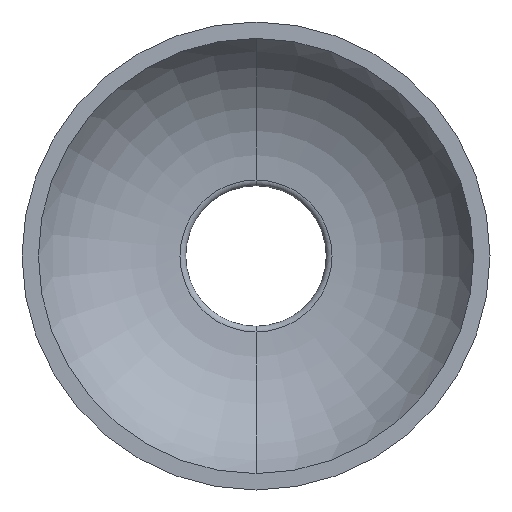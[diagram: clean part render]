
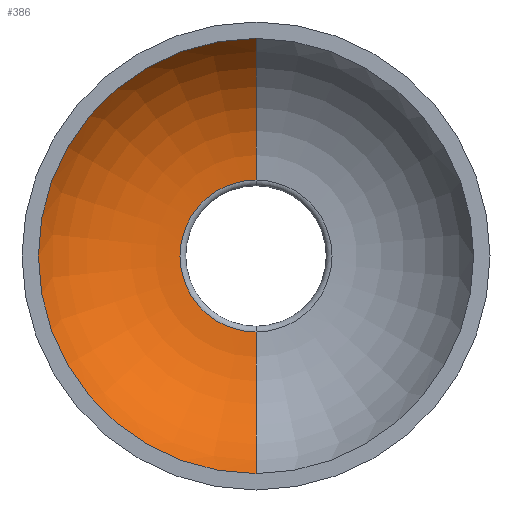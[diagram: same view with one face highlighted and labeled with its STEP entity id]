
A CAD part, front view. The second image highlights one B-rep face of the part: STEP entity #386.
In plain terms, the highlighted toroidal (fillet/blend) face has major radius 6.39 mm and minor radius 13.689 mm.
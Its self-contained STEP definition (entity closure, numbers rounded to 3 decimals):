
#5 = EDGE_CURVE ( 'NONE', #221, #91, #202, .T. ) ;
#12 = AXIS2_PLACEMENT_3D ( 'NONE', #284, #283, #410 ) ;
#14 = EDGE_CURVE ( 'NONE', #221, #249, #287, .T. ) ;
#23 = CARTESIAN_POINT ( 'NONE',  ( 0., -22.5, 0. ) ) ;
#44 = CARTESIAN_POINT ( 'NONE',  ( 0., -30., -18.6 ) ) ;
#45 = CARTESIAN_POINT ( 'NONE',  ( 0., -30., 18.6 ) ) ;
#47 = ORIENTED_EDGE ( 'NONE', *, *, #5, .F. ) ;
#72 = DIRECTION ( 'NONE',  ( 0., 0., 1. ) ) ;
#80 = ORIENTED_EDGE ( 'NONE', *, *, #150, .F. ) ;
#91 = VERTEX_POINT ( 'NONE', #45 ) ;
#103 = DIRECTION ( 'NONE',  ( 0., 1., 0. ) ) ;
#109 = EDGE_CURVE ( 'NONE', #249, #490, #265, .T. ) ;
#146 = CARTESIAN_POINT ( 'NONE',  ( 0., -36.188, -6.39 ) ) ;
#150 = EDGE_CURVE ( 'NONE', #91, #490, #248, .T. ) ;
#170 = AXIS2_PLACEMENT_3D ( 'NONE', #289, #496, #72 ) ;
#191 = CARTESIAN_POINT ( 'NONE',  ( 0., -36.188, 6.39 ) ) ;
#192 = DIRECTION ( 'NONE',  ( 1., 0., 0. ) ) ;
#202 = CIRCLE ( 'NONE', #170, 18.6 ) ;
#221 = VERTEX_POINT ( 'NONE', #44 ) ;
#231 = CARTESIAN_POINT ( 'NONE',  ( 0., -22.5, -6.496 ) ) ;
#232 = EDGE_LOOP ( 'NONE', ( #47, #425, #251, #80 ) ) ;
#248 = CIRCLE ( 'NONE', #457, 13.689 ) ;
#249 = VERTEX_POINT ( 'NONE', #231 ) ;
#251 = ORIENTED_EDGE ( 'NONE', *, *, #109, .T. ) ;
#255 = TOROIDAL_SURFACE ( 'NONE', #12, 6.39, 13.689 ) ;
#265 = CIRCLE ( 'NONE', #360, 6.496 ) ;
#283 = DIRECTION ( 'NONE',  ( 0., 1., 0. ) ) ;
#284 = CARTESIAN_POINT ( 'NONE',  ( 0., -36.188, 0. ) ) ;
#287 = CIRCLE ( 'NONE', #303, 13.689 ) ;
#289 = CARTESIAN_POINT ( 'NONE',  ( 0., -30., 0. ) ) ;
#301 = DIRECTION ( 'NONE',  ( -1., 0., 0. ) ) ;
#303 = AXIS2_PLACEMENT_3D ( 'NONE', #146, #192, #450 ) ;
#360 = AXIS2_PLACEMENT_3D ( 'NONE', #23, #103, #407 ) ;
#363 = CARTESIAN_POINT ( 'NONE',  ( 0., -22.5, 6.496 ) ) ;
#386 = ADVANCED_FACE ( 'NONE', ( #498 ), #255, .F. ) ;
#407 = DIRECTION ( 'NONE',  ( 0., 0., 1. ) ) ;
#410 = DIRECTION ( 'NONE',  ( 0., 0., 1. ) ) ;
#425 = ORIENTED_EDGE ( 'NONE', *, *, #14, .T. ) ;
#450 = DIRECTION ( 'NONE',  ( 0., 0., -1. ) ) ;
#457 = AXIS2_PLACEMENT_3D ( 'NONE', #191, #301, #500 ) ;
#490 = VERTEX_POINT ( 'NONE', #363 ) ;
#496 = DIRECTION ( 'NONE',  ( 0., 1., 0. ) ) ;
#498 = FACE_OUTER_BOUND ( 'NONE', #232, .T. ) ;
#500 = DIRECTION ( 'NONE',  ( 0., 0., 1. ) ) ;
